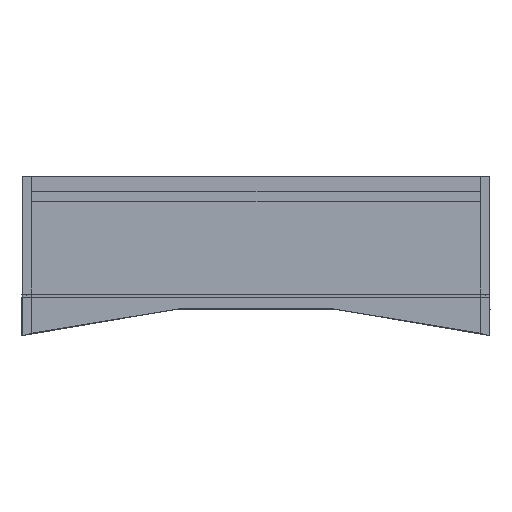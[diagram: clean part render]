
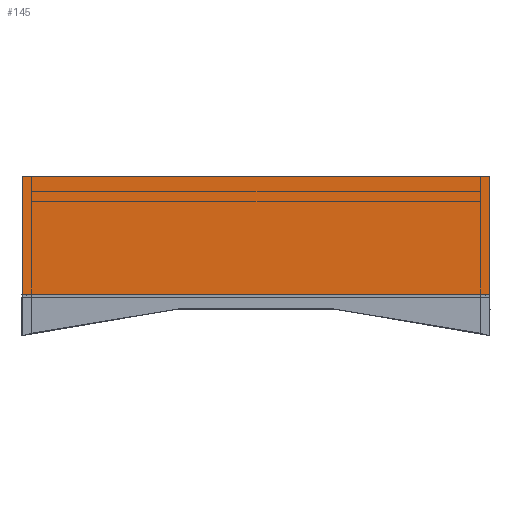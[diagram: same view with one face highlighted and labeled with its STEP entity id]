
A CAD part, left-side view. The second image highlights one B-rep face of the part: STEP entity #145.
In plain terms, the highlighted planar face has unit normal (-1, 0, 0).
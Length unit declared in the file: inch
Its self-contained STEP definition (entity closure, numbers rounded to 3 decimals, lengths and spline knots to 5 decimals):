
#145=ADVANCED_FACE('',(#427),#4406,.T.);
#427=FACE_OUTER_BOUND('',#717,.T.);
#717=EDGE_LOOP('',(#1275,#1276,#1277,#1278));
#1275=ORIENTED_EDGE('',*,*,#2558,.F.);
#1276=ORIENTED_EDGE('',*,*,#2539,.F.);
#1277=ORIENTED_EDGE('',*,*,#2557,.T.);
#1278=ORIENTED_EDGE('',*,*,#2552,.F.);
#2539=EDGE_CURVE('',#3967,#3969,#3250,.T.);
#2552=EDGE_CURVE('',#3976,#3975,#3262,.T.);
#2557=EDGE_CURVE('',#3967,#3975,#3267,.T.);
#2558=EDGE_CURVE('',#3969,#3976,#3268,.T.);
#3250=B_SPLINE_CURVE_WITH_KNOTS('',1,(#5866,#5867),.UNSPECIFIED.,.F.,.F.,
(2,2),(-126.26827,-102.76827),.UNSPECIFIED.);
#3262=B_SPLINE_CURVE_WITH_KNOTS('',1,(#5895,#5896),.UNSPECIFIED.,.F.,.F.,
(2,2),(-23.5,0.),.UNSPECIFIED.);
#3267=B_SPLINE_CURVE_WITH_KNOTS('',1,(#5905,#5906),.UNSPECIFIED.,.F.,.F.,
(2,2),(0.,5.9375),.UNSPECIFIED.);
#3268=B_SPLINE_CURVE_WITH_KNOTS('',1,(#5907,#5908),.UNSPECIFIED.,.F.,.F.,
(2,2),(0.,5.9375),.UNSPECIFIED.);
#3967=VERTEX_POINT('',#5843);
#3969=VERTEX_POINT('',#5845);
#3975=VERTEX_POINT('',#5851);
#3976=VERTEX_POINT('',#5852);
#4406=PLANE('',#4792);
#4792=AXIS2_PLACEMENT_3D('',#5837,#5110,$);
#5110=DIRECTION('',(-1.,0.,0.));
#5837=CARTESIAN_POINT('',(4601.35835,-215.35912,252.96414));
#5843=CARTESIAN_POINT('',(4601.35835,-215.35912,252.96414));
#5845=CARTESIAN_POINT('',(4601.35835,-238.85912,252.96414));
#5851=CARTESIAN_POINT('',(4601.35835,-215.35912,247.02664));
#5852=CARTESIAN_POINT('',(4601.35835,-238.85912,247.02664));
#5866=CARTESIAN_POINT('',(4601.35835,-215.35912,252.96414));
#5867=CARTESIAN_POINT('',(4601.35835,-238.85912,252.96414));
#5895=CARTESIAN_POINT('',(4601.35835,-238.85912,247.02664));
#5896=CARTESIAN_POINT('',(4601.35835,-215.35912,247.02664));
#5905=CARTESIAN_POINT('',(4601.35835,-215.35912,252.96414));
#5906=CARTESIAN_POINT('',(4601.35835,-215.35912,247.02664));
#5907=CARTESIAN_POINT('',(4601.35835,-238.85912,252.96414));
#5908=CARTESIAN_POINT('',(4601.35835,-238.85912,247.02664));
